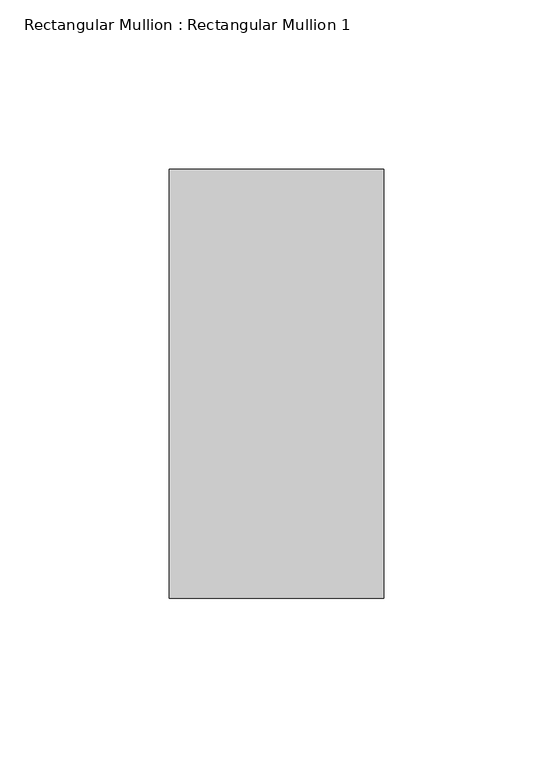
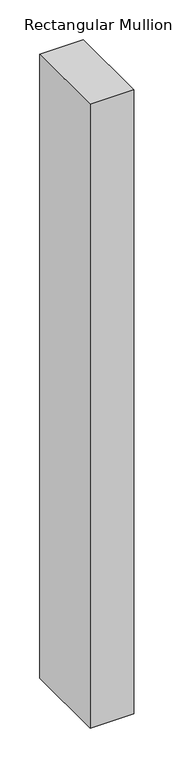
"""IFC4 building model written with IfcOpenShell, lengths in millimetres: member geometry, Rectangular Mullion : Rectangular Mullion 1."""

import ifcopenshell
import ifcopenshell.guid

model = None  # the IFC model being written
_history = None  # IfcOwnerHistory: only IFC2X3 demands one
_inside = {}  # id of a spatial element -> (the spatial element, [elements in it])
_under = {}  # id of a project, library or spatial element -> (it, [spatial elements below it])
_declared = {}  # id of a project -> (the project, [libraries it declares])
_typed = {}  # id of a type object -> (the type object, [elements of that type])
_made_of = {}  # id of a material, layer set ... -> (it, [elements and type objects made of it])


def new_model(schema):
    """Start an empty IFC model of exactly this schema.

    Asked for "IFC4X3", IfcOpenShell would pick the latest addendum, in which some entities
    have other attributes; the version numbers below select the first issue.
    IFC2X3 requires an IfcOwnerHistory on every rooted entity: one is made here for all.
    """
    global model, _history
    if schema == "IFC4X3":
        model = ifcopenshell.file(schema_version=(4, 3, 0, 0))
    else:
        model = ifcopenshell.file(schema=schema)
    _inside.clear()
    _under.clear()
    _declared.clear()
    _typed.clear()
    _made_of.clear()
    _history = None
    if model.schema == "IFC2X3":
        org = make("IfcOrganization", Name="unknown")
        user = make(
            "IfcPersonAndOrganization",
            ThePerson=make("IfcPerson", FamilyName="unknown"),
            TheOrganization=org,
        )
        app = make(
            "IfcApplication",
            ApplicationDeveloper=org,
            Version="unknown",
            ApplicationFullName="unknown",
            ApplicationIdentifier="unknown",
        )
        _history = make(
            "IfcOwnerHistory",
            OwningUser=user,
            OwningApplication=app,
            ChangeAction="ADDED",
            CreationDate=0,
        )
    return model


def make(cls, **values):
    """One entity of the class cls with the attributes given. An attribute that is None is left unset."""
    return model.create_entity(
        cls, **{name: value for name, value in values.items() if value is not None}
    )


def rooted(cls, **values):
    """An entity with a GlobalId (a new one), such as an element, a storey or a relation."""
    return make(cls, GlobalId=ifcopenshell.guid.new(), OwnerHistory=_history, **values)


def si_unit(unit_type, name, prefix=None):
    """IfcSIUnit, for example si_unit("LENGTHUNIT", "METRE", prefix="MILLI")."""
    return make("IfcSIUnit", UnitType=unit_type, Prefix=prefix, Name=name)


def assignment(units):
    """IfcUnitAssignment: the units of a project."""
    return None if units is None else make("IfcUnitAssignment", Units=units)


def point(xyz):
    """IfcCartesianPoint."""
    return None if xyz is None else make("IfcCartesianPoint", Coordinates=xyz)


def direction(xyz):
    """IfcDirection."""
    return None if xyz is None else make("IfcDirection", DirectionRatios=xyz)


def frame(location, z_axis=None, x_axis=None):
    """IfcAxis2Placement3D, a coordinate frame: its origin and axes. An axis left out is left unset."""
    return make(
        "IfcAxis2Placement3D",
        Location=point(location),
        Axis=direction(z_axis),
        RefDirection=direction(x_axis),
    )


def origin():
    """The frame at (0, 0, 0) with its axes left unset."""
    return frame((0.0, 0.0, 0.0))


def place(relative_to, where):
    """IfcLocalPlacement: puts the frame where relative to a parent placement (None: the world)."""
    return make(
        "IfcLocalPlacement", PlacementRelTo=relative_to, RelativePlacement=where
    )


def context(
    kind, dimensions, precision=None, world=None, true_north=None, identifier=None
):
    """IfcGeometricRepresentationContext, for example the 3D "Model" context."""
    return make(
        "IfcGeometricRepresentationContext",
        ContextIdentifier=identifier,
        ContextType=kind,
        CoordinateSpaceDimension=dimensions,
        Precision=precision,
        WorldCoordinateSystem=world,
        TrueNorth=true_north,
    )


def project(units=None, contexts=None):
    """IfcProject with its units and contexts."""
    return rooted(
        "IfcProject",
        Name="project",
        RepresentationContexts=contexts,
        UnitsInContext=assignment(units),
    )


def spatial(cls, under=None, at=None, **own):
    """A site, building, storey or space (cls), placed at a placement, below another one or the project."""
    s = rooted(cls, ObjectPlacement=at, **own)
    if under is not None:
        _under.setdefault(under.id(), (under, []))[1].append(s)
    return s


def polyline(points):
    """IfcPolyline through the points."""
    return make("IfcPolyline", Points=[point(p) for p in points])


def outline(outer, holes=None, kind="AREA"):
    """IfcArbitraryClosedProfileDef: a profile drawn as a closed curve; with holes, ...WithVoids."""
    if holes is None:
        return make("IfcArbitraryClosedProfileDef", ProfileType=kind, OuterCurve=outer)
    return make(
        "IfcArbitraryProfileDefWithVoids",
        ProfileType=kind,
        OuterCurve=outer,
        InnerCurves=holes,
    )


def extrude(swept, where, along, depth):
    """IfcExtrudedAreaSolid: the profile swept, set in the frame where, extruded along a direction by depth."""
    return make(
        "IfcExtrudedAreaSolid",
        SweptArea=swept,
        Position=where,
        ExtrudedDirection=direction(along),
        Depth=depth,
    )


def shape(context_of_items, identifier, shape_type, items):
    """IfcShapeRepresentation: the items that make up one representation, for example the "Body"."""
    return make(
        "IfcShapeRepresentation",
        ContextOfItems=context_of_items,
        RepresentationIdentifier=identifier,
        RepresentationType=shape_type,
        Items=items,
    )


def source(mapping_origin, context_of_items, identifier, shape_type, items):
    """IfcRepresentationMap: a shape defined once, which mapped items show again and again."""
    return make(
        "IfcRepresentationMap",
        MappingOrigin=mapping_origin,
        MappedRepresentation=shape(context_of_items, identifier, shape_type, items),
    )


def transform(
    local_origin,
    x_axis=None,
    y_axis=None,
    z_axis=None,
    scale=None,
    scale2=None,
    scale3=None,
    uniform=True,
):
    """IfcCartesianTransformationOperator3D, or its non-uniform kind. x_axis, y_axis, z_axis: its Axis1, 2, 3."""
    if uniform:
        return make(
            "IfcCartesianTransformationOperator3D",
            Axis1=direction(x_axis),
            Axis2=direction(y_axis),
            LocalOrigin=point(local_origin),
            Scale=scale,
            Axis3=direction(z_axis),
        )
    return make(
        "IfcCartesianTransformationOperator3DnonUniform",
        Axis1=direction(x_axis),
        Axis2=direction(y_axis),
        LocalOrigin=point(local_origin),
        Scale=scale,
        Axis3=direction(z_axis),
        Scale2=scale2,
        Scale3=scale3,
    )


def mapped(mapping_source, mapping_target):
    """IfcMappedItem: shows the shape of a source again, moved by a transform."""
    return make(
        "IfcMappedItem", MappingSource=mapping_source, MappingTarget=mapping_target
    )


def made_of(thing, what):
    """Note that an element or type object is made of a material, layer set ...; save() writes the relation."""
    if what is not None:
        _made_of.setdefault(what.id(), (what, []))[1].append(thing)
    return thing


def element(
    cls,
    number,
    at=None,
    inside=None,
    cuts=None,
    type_object=None,
    material=None,
    context=None,
    identifier="Body",
    shape_type=None,
    held_by="IfcProductDefinitionShape",
    body=None,
    shapes=None,
    **own,
):
    """One element of the class cls, such as IfcWall. Its Tag is "e" and its number.

    at: its placement. inside: the storey or other place that contains it. cuts: it is an
    opening in that element (IfcRelVoidsElement). A single representation is given by context,
    identifier, shape_type and body (its items); several are given by shapes. held_by: the class
    of the entity that holds the representations. save() writes the other relations.
    """
    e = rooted(cls, Tag="e%d" % number, ObjectPlacement=at, **own)
    if body is not None:
        shapes = [shape(context, identifier, shape_type, body)]
    if shapes is not None:
        e.Representation = make(held_by, Representations=shapes)
    if inside is not None:
        _inside.setdefault(inside.id(), (inside, []))[1].append(e)
    if cuts is not None:
        rooted(
            "IfcRelVoidsElement", RelatingBuildingElement=cuts, RelatedOpeningElement=e
        )
    if type_object is not None:
        _typed.setdefault(type_object.id(), (type_object, []))[1].append(e)
    return made_of(e, material)


def aggregate(whole, parts):
    """IfcRelAggregates: a whole, such as a stair, and the parts it consists of."""
    return rooted("IfcRelAggregates", RelatingObject=whole, RelatedObjects=parts)


def save(model, path):
    """Write the relations noted so far, then the file.

    IfcRelAggregates (storeys below a building ...), IfcRelContainedInSpatialStructure (elements
    in a storey), IfcRelDefinesByType, IfcRelAssociatesMaterial and IfcRelDeclares: one each for
    every whole, place, type object, material and project.
    """
    for whole, parts in _under.values():
        aggregate(whole, parts)
    for where, things in _inside.values():
        rooted(
            "IfcRelContainedInSpatialStructure",
            RelatedElements=things,
            RelatingStructure=where,
        )
    for kind, things in _typed.values():
        rooted("IfcRelDefinesByType", RelatedObjects=things, RelatingType=kind)
    for what, things in _made_of.values():
        rooted("IfcRelAssociatesMaterial", RelatedObjects=things, RelatingMaterial=what)
    for by, libraries in _declared.values():
        rooted("IfcRelDeclares", RelatingContext=by, RelatedDefinitions=libraries)
    model.write(path)


def rectangular_mullion_rectangular_mullion_1_8b184945(model_context):
    return source(origin(), model_context, "Body", "SweptSolid", [
        extrude(outline(polyline([(0.0, 63.5), (0.0, -63.5), (-63.5, -63.5), (-63.5, 63.5), (0.0, 63.5)])), frame((0.0, 0.0, -958.4266143), z_axis=(0.0, 0.0, 1.0), x_axis=(1.0, 0.0, 0.0)), (0.0, 0.0, 1.0), 958.4266143),
    ])


if __name__ == "__main__":
    model = new_model("IFC4")
    model_context = context("Model", 3, world=origin())
    ifc_project = project(units=[si_unit("LENGTHUNIT", "METRE", prefix="MILLI")], contexts=[model_context])
    site = spatial("IfcSite", under=ifc_project)
    building = spatial("IfcBuilding", under=site)
    placement = place(None, origin())
    rectangular_mullion_rectangular_mullion_1_shape = rectangular_mullion_rectangular_mullion_1_8b184945(model_context)
    element("IfcMember", 1, ObjectType="Rectangular Mullion : Rectangular Mullion 1", at=placement, inside=building, context=model_context, shape_type="MappedRepresentation", body=[
        mapped(rectangular_mullion_rectangular_mullion_1_shape, transform((0.0, 0.0, 0.0), x_axis=(1.0, 0.0, 0.0), y_axis=(0.0, 1.0, 0.0), z_axis=(0.0, 0.0, 1.0))),
    ])
    save(model, "model.ifc")
